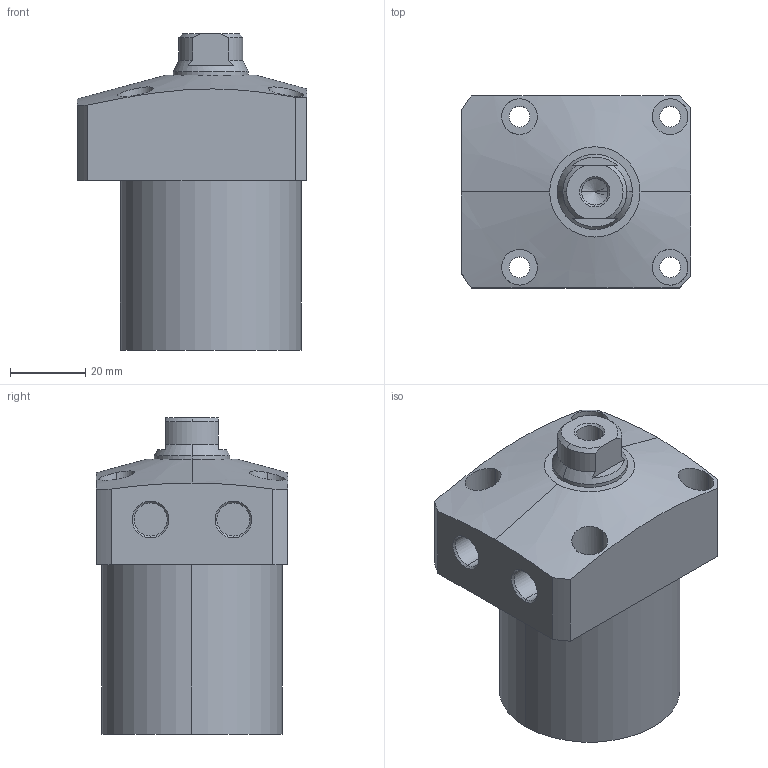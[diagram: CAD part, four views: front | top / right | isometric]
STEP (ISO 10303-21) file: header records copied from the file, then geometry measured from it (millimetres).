
FILE_DESCRIPTION (( 'STEP AP203' ), '1' );
FILE_NAME ('CLL-0480-CA-35.STEP', '2017-05-09T02:23:44', ( '' ), ( '' ), 'SwSTEP 2.0', 'SolidWorks 2015', '' );
FILE_SCHEMA (( 'CONFIG_CONTROL_DESIGN' ));
Length unit declared in the file: millimetre
Products named in the file (1): CLL-0480-CA-35
Bounding box: 61 x 51 x 84 mm (x, y, z)
Volume: 156034.8 mm3; surface area: 21350.7 mm2
Topology: 1 solids, 1 shells, 72 faces, 169 edges, 108 vertices
Faces by surface type: cylinder 35, plane 22, cone 15
Entity records: 2479 total; most frequent: CARTESIAN_POINT 714, DIRECTION 366, ORIENTED_EDGE 334, EDGE_CURVE 167, AXIS2_PLACEMENT_3D 150, VERTEX_POINT 108, EDGE_LOOP 91, CIRCLE 77
